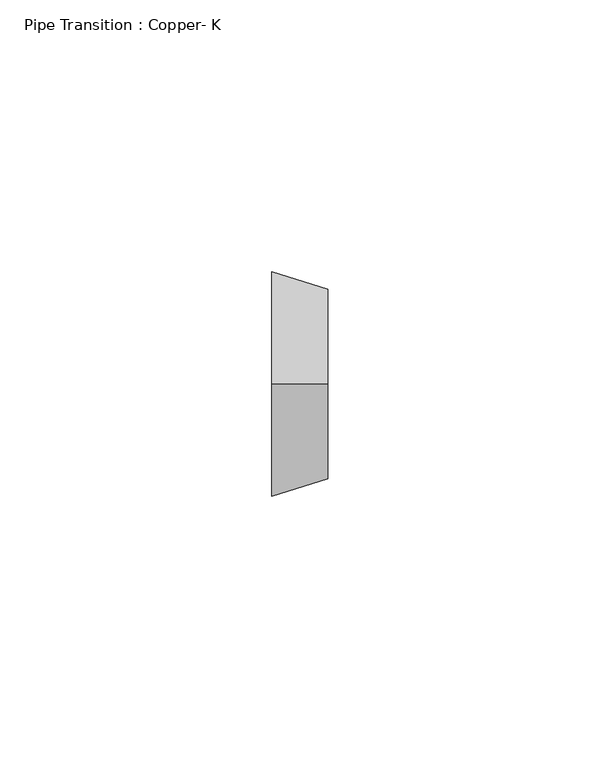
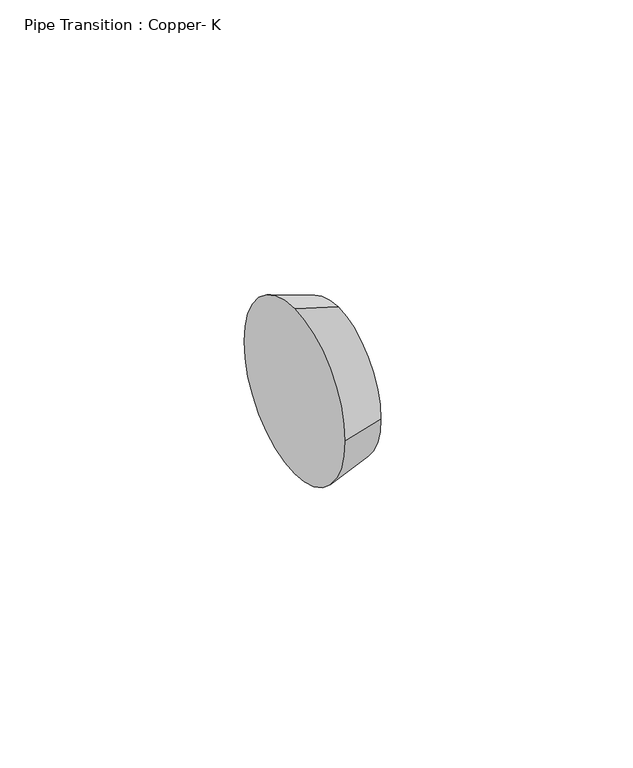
"""IFC4 building model written with IfcOpenShell, lengths in millimetres: pipe fitting geometry, Pipe Transition : Copper- K."""

from ifc_helpers import new_model, si_unit, frame, origin, place, context, project, spatial, polyline, circle_curve, source, transform, mapped, element, save
from ifc_brep_helpers import plane_surface, revolved_surface, advanced_brep


def pipe_transition_copper_k_f9440895(model_context):
    return source(origin(), model_context, "Body", "AdvancedBrep", [
        advanced_brep(
        [(10.31875, 0.0, 17.4625), (10.31875, -17.4625, 0.0), (10.31875, 0.0, -17.4625), (10.31875, 17.4625, 0.0), (0.0, 0.0, 20.6375), (0.0, 20.6375, 0.0), (0.0, 0.0, -20.6375), (0.0, -20.6375, 0.0)],
        [
            (0, 1, circle_curve(frame((10.31875, 0.0, 0.0), z_axis=(1.0, 0.0, 0.0), x_axis=(0.0, -1.0, 0.0)), 17.4625)),
            (1, 2, circle_curve(frame((10.31875, 0.0, 0.0), z_axis=(1.0, 0.0, 0.0), x_axis=(0.0, 0.0, -1.0)), 17.4625)),
            (2, 3, circle_curve(frame((10.31875, 0.0, 0.0), z_axis=(1.0, 0.0, 0.0), x_axis=(0.0, 1.0, 0.0)), 17.4625)),
            (3, 0, circle_curve(frame((10.31875, 0.0, 0.0), z_axis=(1.0, 0.0, 0.0), x_axis=(0.0, 0.0, 1.0)), 17.4625)),
            (4, 5, circle_curve(frame((0.0, 0.0, 0.0), z_axis=(-1.0, 0.0, 0.0), x_axis=(0.0, 0.0, 1.0)), 20.6375)),
            (5, 6, circle_curve(frame((0.0, 0.0, 0.0), z_axis=(-1.0, 0.0, 0.0), x_axis=(0.0, 1.0, 0.0)), 20.6375)),
            (6, 7, circle_curve(frame((0.0, 0.0, 0.0), z_axis=(-1.0, 0.0, 0.0), x_axis=(0.0, 0.0, -1.0)), 20.6375)),
            (7, 4, circle_curve(frame((0.0, 0.0, 0.0), z_axis=(-1.0, 0.0, 0.0), x_axis=(0.0, -1.0, 0.0)), 20.6375)),
            (4, 0),
            (3, 5),
            (2, 6),
            (1, 7),
        ],
        [
            plane_surface(frame((10.31875, 0.0, 0.0), z_axis=(1.0, 0.0, 0.0), x_axis=(0.0, 1.0, 0.0))),
            plane_surface(frame((0.0, 0.0, 0.0), z_axis=(-1.0, 0.0, 0.0), x_axis=(0.0, 1.0, 0.0))),
            revolved_surface(polyline([(10.318750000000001, 0.0, 17.4625), (0.0, 0.0, 20.6375)]), (67.071875, 0.0, 0.0), (-1.0, 0.0, 0.0)),
            revolved_surface(polyline([(10.318750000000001, 17.4625, 0.0), (0.0, 20.6375, 0.0)]), (67.071875, 0.0, 0.0), (-1.0, 0.0, 0.0)),
            revolved_surface(polyline([(10.318750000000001, 0.0, -17.4625), (0.0, 0.0, -20.6375)]), (67.071875, 0.0, 0.0), (-1.0, 0.0, 0.0)),
            revolved_surface(polyline([(10.318750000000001, -17.4625, 0.0), (0.0, -20.6375, 0.0)]), (67.071875, 0.0, 0.0), (-1.0, 0.0, 0.0)),
        ],
        [
            (0, [[1, 2, 3, 4]]),
            (1, [[5, 6, 7, 8]]),
            (2, [[9, -4, 10, -5]]),
            (3, [[-10, -3, 11, -6]]),
            (4, [[-11, -2, 12, -7]]),
            (5, [[-12, -1, -9, -8]]),
        ],
    ),
        advanced_brep(
        [(10.31875, 0.0, 17.4625), (10.31875, -17.4625, 0.0), (10.31875, 0.0, -17.4625), (10.31875, 17.4625, 0.0), (0.0, 0.0, 20.6375), (0.0, 20.6375, 0.0), (0.0, 0.0, -20.6375), (0.0, -20.6375, 0.0)],
        [
            (0, 1, circle_curve(frame((10.31875, 0.0, 0.0), z_axis=(1.0, 0.0, 0.0), x_axis=(0.0, -1.0, 0.0)), 17.4625)),
            (1, 2, circle_curve(frame((10.31875, 0.0, 0.0), z_axis=(1.0, 0.0, -1.2689316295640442e-12), x_axis=(-1.268833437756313e-12, 0.0, -1.0)), 17.4625)),
            (2, 3, circle_curve(frame((10.31875, 0.0, 0.0), z_axis=(1.0, 0.0, 0.0), x_axis=(0.0, 1.0, 0.0)), 17.4625)),
            (3, 0, circle_curve(frame((10.31875, 0.0, 0.0), z_axis=(1.0, 0.0, 0.0), x_axis=(0.0, 0.0, 1.0)), 17.4625)),
            (4, 5, circle_curve(frame((0.0, 0.0, 0.0), z_axis=(-1.0, 0.0, 0.0), x_axis=(0.0, 0.0, 1.0)), 20.6375)),
            (5, 6, circle_curve(frame((0.0, 0.0, 0.0), z_axis=(-1.0, 0.0, 0.0), x_axis=(0.0, 1.0, 0.0)), 20.6375)),
            (6, 7, circle_curve(frame((0.0, 0.0, 0.0), z_axis=(-1.0, 0.0, 1.2689316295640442e-12), x_axis=(-1.268833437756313e-12, 0.0, -1.0)), 20.6375)),
            (7, 4, circle_curve(frame((0.0, 0.0, 0.0), z_axis=(-1.0, 0.0, 0.0), x_axis=(0.0, -1.0, 0.0)), 20.6375)),
            (4, 0),
            (3, 5),
            (2, 6),
            (1, 7),
        ],
        [
            plane_surface(frame((10.31875, 0.0, 0.0), z_axis=(1.0, 0.0, 0.0), x_axis=(0.0, 1.0, 0.0))),
            plane_surface(frame((0.0, 0.0, 0.0), z_axis=(-1.0, 0.0, 0.0), x_axis=(0.0, 1.0, 0.0))),
            revolved_surface(polyline([(10.318750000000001, 0.0, 17.4625), (0.0, 0.0, 20.6375)]), (67.071875, 0.0, 0.0), (-1.0, 0.0, 0.0)),
            revolved_surface(polyline([(10.318750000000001, 17.4625, 0.0), (0.0, 20.6375, 0.0)]), (67.071875, 0.0, 0.0), (-1.0, 0.0, 0.0)),
            revolved_surface(polyline([(10.318750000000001, 0.0, -17.4625), (-2.6190605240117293e-11, 0.0, -20.63750000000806)]), (67.071875, 0.0, 0.0), (-1.0, 0.0, 1.2689316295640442e-12)),
            revolved_surface(polyline([(10.318750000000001, -17.4625, 0.0), (0.0, -20.6375, 0.0)]), (67.071875, 0.0, 0.0), (-1.0, 0.0, 0.0)),
        ],
        [
            (0, [[1, 2, 3, 4]]),
            (1, [[5, 6, 7, 8]]),
            (2, [[9, -4, 10, -5]]),
            (3, [[-10, -3, 11, -6]]),
            (4, [[-11, -2, 12, -7]]),
            (5, [[-12, -1, -9, -8]]),
        ],
    ),
    ])


if __name__ == "__main__":
    model = new_model("IFC4")
    model_context = context("Model", 3, world=origin())
    ifc_project = project(units=[si_unit("LENGTHUNIT", "METRE", prefix="MILLI")], contexts=[model_context])
    site = spatial("IfcSite", under=ifc_project)
    building = spatial("IfcBuilding", under=site)
    placement = place(None, origin())
    pipe_transition_copper_k_shape = pipe_transition_copper_k_f9440895(model_context)
    element("IfcPipeFitting", 1, ObjectType="Pipe Transition : Copper- K", at=placement, inside=building, context=model_context, shape_type="MappedRepresentation", body=[
        mapped(pipe_transition_copper_k_shape, transform((0.0, 0.0, 0.0), x_axis=(1.0, 0.0, 0.0), y_axis=(0.0, 1.0, 0.0), z_axis=(0.0, 0.0, 1.0))),
    ])
    save(model, "model.ifc")
